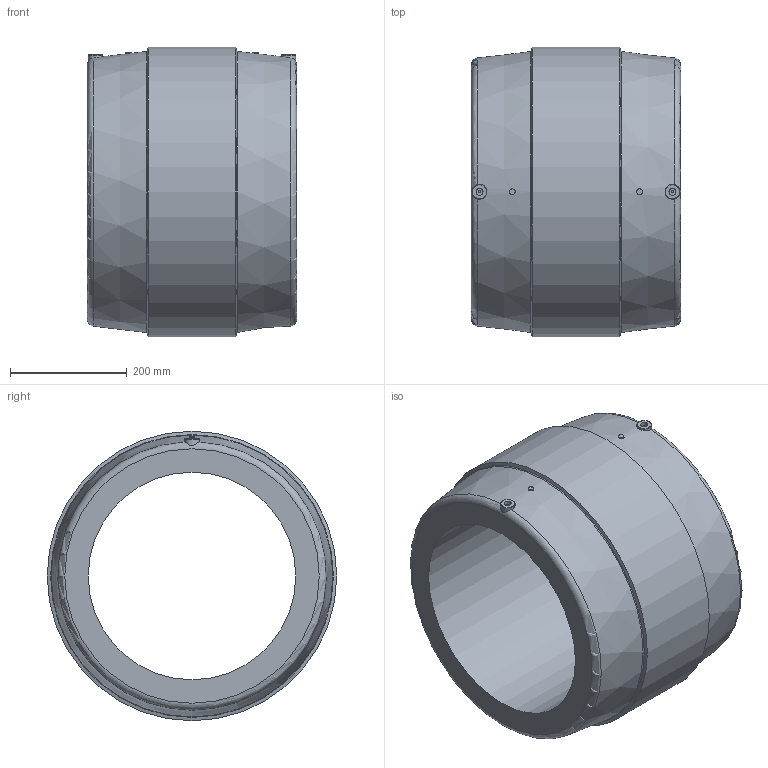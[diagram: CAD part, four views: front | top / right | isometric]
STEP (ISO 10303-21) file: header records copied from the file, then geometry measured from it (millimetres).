
FILE_DESCRIPTION(/* description */ ('Unknown'),/* implementation_level */ '2;1');
FILE_NAME(/* name */ 'MP355H',/* time_stamp */ '2021-05-27T12:34:12+02:00',/* author */ ('Unknown'),/* organization */ ('Unknown'),/* preprocessor_version */ 'ST-DEVELOPER v16.7',/* originating_system */ 'Solid Edge',/* authorisation */ 'Unknown');
FILE_SCHEMA (('AUTOMOTIVE_DESIGN {1 0 10303 214 3 1 1}'));
Length unit declared in the file: millimetre
Products named in the file (1): MP355H
Bounding box: 358 x 495 x 495 mm (x, y, z)
Volume: 29326255.2 mm3; surface area: 1076993.7 mm2
Topology: 1 solids, 1 shells, 30 faces, 63 edges, 40 vertices
Faces by surface type: plane 10, cylinder 8, torus 6, cone 6
Full cylindrical faces by diameter (mm): 4 x2, 10 x2, 12 x2, 355 x1, 495 x1
Entity records: 700 total; most frequent: CARTESIAN_POINT 161, DIRECTION 114, ORIENTED_EDGE 64, EDGE_LOOP 58, FACE_BOUND 58, AXIS2_PLACEMENT_3D 57, EDGE_CURVE 32, VERTEX_POINT 30
